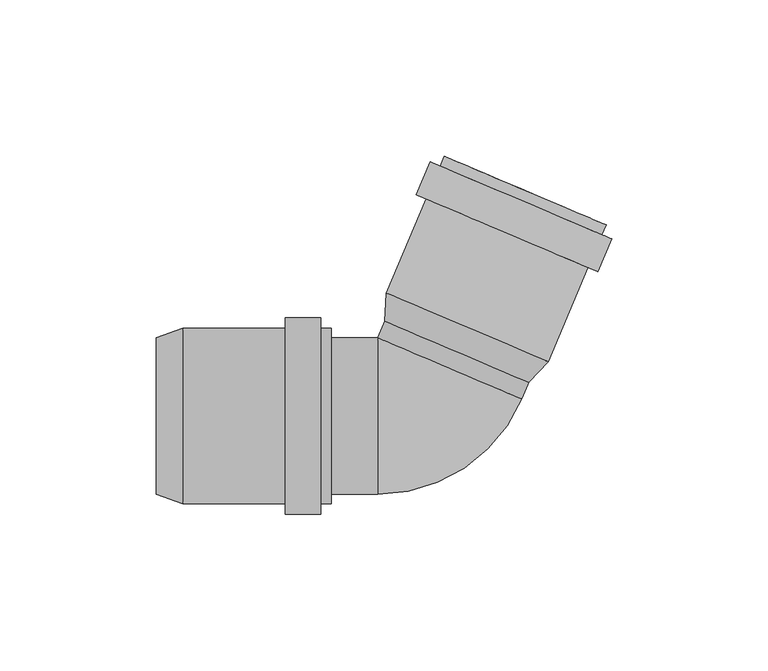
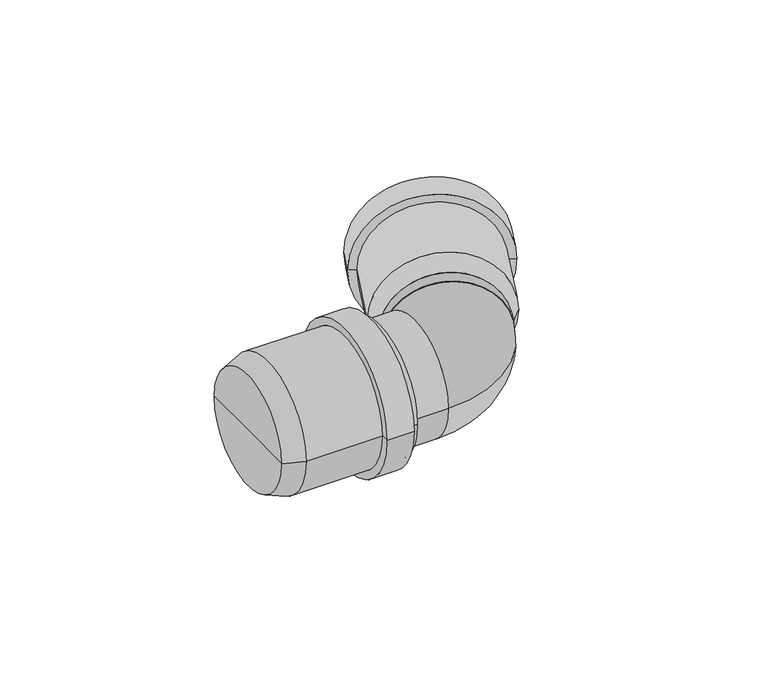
"""IFC4 building model written with IfcOpenShell, lengths in millimetres: pipe fitting geometry, pf_HTB : pf_HTB."""

from ifc_helpers import new_model, si_unit, point, frame, origin, origin_2d, place, context, project, spatial, polyline, circle_curve, ellipse_curve, trimmed, segment, composite_curve, outline, extrude, source, transform, mapped, element, save
from ifc_brep_helpers import plane_surface, cylinder_surface, revolved_surface, advanced_brep


def pipe_fitting_8c246949(model_context):
    return source(origin(), model_context, "Body", "SolidModel", [
        advanced_brep(
        [(31.7259255, 10.75898, 0.0), (-14.2993172, 30.2955364, 0.0), (-13.8316676, 39.3310942, 0.0), (37.9007051, 17.3720048, 0.0), (8.7133042, 20.5272582, 0.0), (56.4604337, 61.0959853, 0.0), (4.728061, 83.0550747, 0.0), (7.581626, 81.8438082, 0.0), (53.6068687, 62.3072518, 0.0), (55.1319479, 57.9662688, 0.0), (3.3995751, 79.9253582, 0.0), (58.2616644, 56.637783, 0.0), (0.2698586, 81.2538441, 0.0), (53.8073295, 46.1440276, 0.0), (-4.1844762, 70.7600887, 0.0), (50.677613, 47.4725135, 0.0), (-1.0547597, 69.4316029, 0.0), (35.0471401, 18.5832713, 0.0), (-10.9781026, 38.1198277, 0.0), (12.0345188, 28.3515495, 0.0)],
        [
            (0, 1, circle_curve(frame((8.7133042, 20.5272582, 0.0), z_axis=(0.3907311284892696, 0.9205048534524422, 0.0), x_axis=(-0.9205048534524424, 0.3907311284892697, 0.0)), 25.0)),
            (1, 2),
            (2, 3, circle_curve(frame((12.0345188, 28.3515495, 0.0), z_axis=(-0.3907311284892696, -0.9205048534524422, 0.0), x_axis=(-0.9205048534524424, 0.3907311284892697, 0.0)), 28.1)),
            (3, 0),
            (1, 0, circle_curve(frame((8.7133042, 20.5272582, 0.0), z_axis=(0.3907311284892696, 0.9205048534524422, 0.0), x_axis=(-0.9205048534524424, 0.3907311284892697, 0.0)), 25.0)),
            (3, 2, circle_curve(frame((12.0345188, 28.3515495, 0.0), z_axis=(-0.3907311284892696, -0.9205048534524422, 0.0), x_axis=(-0.9205048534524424, 0.3907311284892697, 0.0)), 28.1)),
            (4, 1),
            (0, 4),
            (5, 6, circle_curve(frame((30.5942474, 72.07553, 0.0), z_axis=(0.3907311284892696, 0.9205048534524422, 0.0), x_axis=(-0.9205048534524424, 0.3907311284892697, 0.0)), 28.1)),
            (6, 7),
            (7, 8, circle_curve(frame((30.5942474, 72.07553, 0.0), z_axis=(-0.3907311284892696, -0.9205048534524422, 0.0), x_axis=(-0.9205048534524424, 0.3907311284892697, 0.0)), 25.0)),
            (8, 5),
            (6, 5, circle_curve(frame((30.5942474, 72.07553, 0.0), z_axis=(0.3907311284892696, 0.9205048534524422, 0.0), x_axis=(-0.9205048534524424, 0.3907311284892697, 0.0)), 28.1)),
            (8, 7, circle_curve(frame((30.5942474, 72.07553, 0.0), z_axis=(-0.3907311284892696, -0.9205048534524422, 0.0), x_axis=(-0.9205048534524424, 0.3907311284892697, 0.0)), 25.0)),
            (9, 10, circle_curve(frame((29.2657615, 68.9458135, 0.0), z_axis=(0.3907311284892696, 0.9205048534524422, 0.0), x_axis=(-0.9205048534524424, 0.3907311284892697, 0.0)), 28.1)),
            (10, 6),
            (5, 9),
            (10, 9, circle_curve(frame((29.2657615, 68.9458135, 0.0), z_axis=(0.3907311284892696, 0.9205048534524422, 0.0), x_axis=(-0.9205048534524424, 0.3907311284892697, 0.0)), 28.1)),
            (11, 12, circle_curve(frame((29.2657615, 68.9458135, 0.0), z_axis=(0.3907311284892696, 0.9205048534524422, 0.0), x_axis=(-0.9205048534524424, 0.3907311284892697, 0.0)), 31.5)),
            (12, 10),
            (9, 11),
            (12, 11, circle_curve(frame((29.2657615, 68.9458135, 0.0), z_axis=(0.3907311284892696, 0.9205048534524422, 0.0), x_axis=(-0.9205048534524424, 0.3907311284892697, 0.0)), 31.5)),
            (13, 14, circle_curve(frame((24.8114267, 58.4520582, 0.0), z_axis=(0.3907311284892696, 0.9205048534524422, 0.0), x_axis=(-0.9205048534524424, 0.3907311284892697, 0.0)), 31.5)),
            (14, 12),
            (11, 13),
            (14, 13, circle_curve(frame((24.8114267, 58.4520582, 0.0), z_axis=(0.3907311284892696, 0.9205048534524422, 0.0), x_axis=(-0.9205048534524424, 0.3907311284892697, 0.0)), 31.5)),
            (15, 16, circle_curve(frame((24.8114267, 58.4520582, 0.0), z_axis=(0.3907311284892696, 0.9205048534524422, 0.0), x_axis=(-0.9205048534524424, 0.3907311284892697, 0.0)), 28.1)),
            (16, 14),
            (13, 15),
            (16, 15, circle_curve(frame((24.8114267, 58.4520582, 0.0), z_axis=(0.3907311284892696, 0.9205048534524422, 0.0), x_axis=(-0.9205048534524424, 0.3907311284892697, 0.0)), 28.1)),
            (2, 16),
            (15, 3),
            (17, 18, circle_curve(frame((12.0345188, 28.3515495, 0.0), z_axis=(0.3907311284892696, 0.9205048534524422, 0.0), x_axis=(-0.9205048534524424, 0.3907311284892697, 0.0)), 25.0)),
            (18, 19),
            (19, 17),
            (18, 17, circle_curve(frame((12.0345188, 28.3515495, 0.0), z_axis=(0.3907311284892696, 0.9205048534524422, 0.0), x_axis=(-0.9205048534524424, 0.3907311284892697, 0.0)), 25.0)),
            (7, 18),
            (17, 8),
        ],
        [
            revolved_surface(polyline([(-13.8316676, 39.3310942, 0.0), (-14.2993172, 30.2955364, 0.0)]), (8.7133042, 20.5272582, 0.0), (-0.3907311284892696, -0.9205048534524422, 0.0)),
            plane_surface(frame((8.7133042, 20.5272582, 0.0), z_axis=(-0.3907311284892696, -0.9205048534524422, 0.0), x_axis=(-0.9205048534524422, 0.3907311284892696, 0.0))),
            plane_surface(frame((30.5942474, 72.07553, 0.0), z_axis=(0.3907311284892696, 0.9205048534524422, 0.0), x_axis=(-0.9205048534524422, 0.3907311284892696, 0.0))),
            cylinder_surface(frame((8.7133042, 20.5272582, 0.0), z_axis=(-0.3907311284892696, -0.9205048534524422, 0.0), x_axis=(-0.9205048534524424, 0.3907311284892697, 0.0)), 28.1),
            plane_surface(frame((29.2657615, 68.9458135, 0.0), z_axis=(0.3907311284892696, 0.9205048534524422, 0.0), x_axis=(-0.9205048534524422, 0.3907311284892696, 0.0))),
            cylinder_surface(frame((8.7133042, 20.5272582, 0.0), z_axis=(-0.3907311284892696, -0.9205048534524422, 0.0), x_axis=(-0.9205048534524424, 0.3907311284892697, 0.0)), 31.5),
            plane_surface(frame((24.8114267, 58.4520582, 0.0), z_axis=(-0.3907311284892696, -0.9205048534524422, 0.0), x_axis=(-0.9205048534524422, 0.3907311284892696, 0.0))),
            plane_surface(frame((12.0345188, 28.3515495, 0.0), z_axis=(0.3907311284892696, 0.9205048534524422, 0.0), x_axis=(-0.9205048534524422, 0.3907311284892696, 0.0))),
            revolved_surface(polyline([(-10.978102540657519, 38.119827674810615, 0.0), (7.581626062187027, 81.84380821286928, 0.0)]), (8.7133042, 20.5272582, 0.0), (-0.3907311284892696, -0.9205048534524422, 0.0)),
        ],
        [
            (0, [[1, 2, 3, 4]]),
            (0, [[5, -4, 6, -2]]),
            (1, [[7, -1, 8]]),
            (1, [[-8, -5, -7]]),
            (2, [[9, 10, 11, 12]]),
            (2, [[13, -12, 14, -10]]),
            (3, [[15, 16, -9, 17]]),
            (3, [[18, -17, -13, -16]]),
            (4, [[19, 20, -15, 21]]),
            (4, [[22, -21, -18, -20]]),
            (5, [[23, 24, -19, 25]]),
            (5, [[26, -25, -22, -24]]),
            (6, [[27, 28, -23, 29]]),
            (6, [[30, -29, -26, -28]]),
            (3, [[-3, 31, -27, 32]]),
            (3, [[-6, -32, -30, -31]]),
            (7, [[33, 34, 35]]),
            (7, [[36, -35, -34]]),
            (8, [[-11, 37, -33, 38]]),
            (8, [[-14, -38, -36, -37]]),
        ],
    ),
        advanced_brep(
        [(-87.4, -25.0, 0.0), (-87.4, 25.0, 0.0), (-78.9, 28.1, 0.0), (-78.9, -28.1, 0.0), (-87.4, 0.0, 0.0), (-31.4, -28.1, 0.0), (-31.4, 28.1, 0.0), (-31.4, 25.0, 0.0), (-31.4, -25.0, 0.0), (-34.8, -28.1, 0.0), (-34.8, 28.1, 0.0), (-34.8, -31.5, 0.0), (-34.8, 31.5, 0.0), (-46.2, -31.5, 0.0), (-46.2, 31.5, 0.0), (-46.2, -28.1, 0.0), (-46.2, 28.1, 0.0), (-78.9, -25.0, 0.0), (-78.9, 25.0, 0.0), (-78.9, 0.0, 0.0)],
        [
            (0, 1, circle_curve(frame((-87.4, 0.0, 0.0), z_axis=(1.0, 0.0, 0.0), x_axis=(0.0, 1.0, 0.0)), 25.0)),
            (1, 2),
            (2, 3, circle_curve(frame((-78.9, 0.0, 0.0), z_axis=(-1.0, 0.0, 0.0), x_axis=(0.0, 1.0, 0.0)), 28.1)),
            (3, 0),
            (1, 0, circle_curve(frame((-87.4, 0.0, 0.0), z_axis=(1.0, 0.0, 0.0), x_axis=(0.0, 1.0, 0.0)), 25.0)),
            (3, 2, circle_curve(frame((-78.9, 0.0, 0.0), z_axis=(-1.0, 0.0, 0.0), x_axis=(0.0, 1.0, 0.0)), 28.1)),
            (4, 1),
            (0, 4),
            (5, 6, circle_curve(frame((-31.4, 0.0, 0.0), z_axis=(1.0, 0.0, 0.0), x_axis=(0.0, 1.0, 0.0)), 28.1)),
            (6, 7),
            (7, 8, circle_curve(frame((-31.4, 0.0, 0.0), z_axis=(-1.0, 0.0, 0.0), x_axis=(0.0, 1.0, 0.0)), 25.0)),
            (8, 5),
            (6, 5, circle_curve(frame((-31.4, 0.0, 0.0), z_axis=(1.0, 0.0, 0.0), x_axis=(0.0, 1.0, 0.0)), 28.1)),
            (8, 7, circle_curve(frame((-31.4, 0.0, 0.0), z_axis=(-1.0, 0.0, 0.0), x_axis=(0.0, 1.0, 0.0)), 25.0)),
            (9, 10, circle_curve(frame((-34.8, 0.0, 0.0), z_axis=(1.0, 0.0, 0.0), x_axis=(0.0, 1.0, 0.0)), 28.1)),
            (10, 6),
            (5, 9),
            (10, 9, circle_curve(frame((-34.8, 0.0, 0.0), z_axis=(1.0, 0.0, 0.0), x_axis=(0.0, 1.0, 0.0)), 28.1)),
            (11, 12, circle_curve(frame((-34.8, 0.0, 0.0), z_axis=(1.0, 0.0, 0.0), x_axis=(0.0, 1.0, 0.0)), 31.5)),
            (12, 10),
            (9, 11),
            (12, 11, circle_curve(frame((-34.8, 0.0, 0.0), z_axis=(1.0, 0.0, 0.0), x_axis=(0.0, 1.0, 0.0)), 31.5)),
            (13, 14, circle_curve(frame((-46.2, 0.0, 0.0), z_axis=(1.0, 0.0, 0.0), x_axis=(0.0, 1.0, 0.0)), 31.5)),
            (14, 12),
            (11, 13),
            (14, 13, circle_curve(frame((-46.2, 0.0, 0.0), z_axis=(1.0, 0.0, 0.0), x_axis=(0.0, 1.0, 0.0)), 31.5)),
            (15, 16, circle_curve(frame((-46.2, 0.0, 0.0), z_axis=(1.0, 0.0, 0.0), x_axis=(0.0, 1.0, 0.0)), 28.1)),
            (16, 14),
            (13, 15),
            (16, 15, circle_curve(frame((-46.2, 0.0, 0.0), z_axis=(1.0, 0.0, 0.0), x_axis=(0.0, 1.0, 0.0)), 28.1)),
            (2, 16),
            (15, 3),
            (17, 18, circle_curve(frame((-78.9, 0.0, 0.0), z_axis=(1.0, 0.0, 0.0), x_axis=(0.0, 1.0, 0.0)), 25.0)),
            (18, 19),
            (19, 17),
            (18, 17, circle_curve(frame((-78.9, 0.0, 0.0), z_axis=(1.0, 0.0, 0.0), x_axis=(0.0, 1.0, 0.0)), 25.0)),
            (7, 18),
            (17, 8),
        ],
        [
            revolved_surface(polyline([(-78.9, 28.1, 0.0), (-87.4, 25.0, 0.0)]), (-87.4, 0.0, 0.0), (-1.0, 0.0, 0.0)),
            plane_surface(frame((-87.4, 0.0, 0.0), z_axis=(-1.0, 0.0, 0.0), x_axis=(0.0, 1.0, 0.0))),
            plane_surface(frame((-31.4, 0.0, 0.0), z_axis=(1.0, 0.0, 0.0), x_axis=(0.0, 1.0, 0.0))),
            cylinder_surface(frame((-87.4, 0.0, 0.0), z_axis=(-1.0, 0.0, 0.0), x_axis=(0.0, 1.0, 0.0)), 28.1),
            plane_surface(frame((-34.8, 0.0, 0.0), z_axis=(1.0, 0.0, 0.0), x_axis=(0.0, 1.0, 0.0))),
            cylinder_surface(frame((-87.4, 0.0, 0.0), z_axis=(-1.0, 0.0, 0.0), x_axis=(0.0, 1.0, 0.0)), 31.5),
            plane_surface(frame((-46.2, 0.0, 0.0), z_axis=(-1.0, 0.0, 0.0), x_axis=(0.0, 1.0, 0.0))),
            plane_surface(frame((-78.9, 0.0, 0.0), z_axis=(1.0, 0.0, 0.0), x_axis=(0.0, 1.0, 0.0))),
            revolved_surface(polyline([(-78.9, 25.0, 0.0), (-31.4, 25.0, 0.0)]), (-87.4, 0.0, 0.0), (-1.0, 0.0, 0.0)),
        ],
        [
            (0, [[1, 2, 3, 4]]),
            (0, [[5, -4, 6, -2]]),
            (1, [[7, -1, 8]]),
            (1, [[-8, -5, -7]]),
            (2, [[9, 10, 11, 12]]),
            (2, [[13, -12, 14, -10]]),
            (3, [[15, 16, -9, 17]]),
            (3, [[18, -17, -13, -16]]),
            (4, [[19, 20, -15, 21]]),
            (4, [[22, -21, -18, -20]]),
            (5, [[23, 24, -19, 25]]),
            (5, [[26, -25, -22, -24]]),
            (6, [[27, 28, -23, 29]]),
            (6, [[30, -29, -26, -28]]),
            (3, [[-3, 31, -27, 32]]),
            (3, [[-6, -32, -30, -31]]),
            (7, [[33, 34, 35]]),
            (7, [[36, -35, -34]]),
            (8, [[-11, 37, -33, 38]]),
            (8, [[-14, -38, -36, -37]]),
        ],
    ),
        extrude(outline(composite_curve([segment(trimmed(circle_curve(origin_2d(), 25.0), [point((0.0, -25.0))], [point((0.0, 25.0))], False, "CARTESIAN"), True, "CONTINUOUS"), segment(trimmed(circle_curve(origin_2d(), 25.0), [point((0.0, 25.0))], [point((0.0, -25.0))], False, "CARTESIAN"), True, "CONTINUOUS")], self_intersect=False)), frame((6.4654823, 15.2317218, 0.0), z_axis=(0.39073112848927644, 0.9205048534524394, 0.0), x_axis=(0.0, 0.0, 1.0)), (0.0, 0.0, 1.0), 14.252861),
        extrude(outline(composite_curve([segment(trimmed(circle_curve(origin_2d(), 25.0), [point((-25.0, 0.0))], [point((25.0, 0.0))], False, "CARTESIAN"), True, "CONTINUOUS"), segment(trimmed(circle_curve(origin_2d(), 25.0), [point((25.0, 0.0))], [point((-25.0, 0.0))], False, "CARTESIAN"), True, "CONTINUOUS")], self_intersect=False)), frame((-78.9, 0.0, 0.0), z_axis=(1.0, 0.0, 0.0), x_axis=(0.0, 1.0, 0.0)), (0.0, 0.0, 1.0), 62.352861),
        advanced_brep(
        [(-16.547139, -25.0, 0.0), (-16.547139, 25.0, 0.0), (29.4781036, 5.4634436, 0.0)],
        [
            (0, 1, circle_curve(frame((-16.547139, 0.0, 0.0), z_axis=(-1.0, 0.0, 0.0), x_axis=(0.0, 1.0, 0.0)), 25.0)),
            (1, 0, circle_curve(frame((-16.547139, 0.0, 0.0), z_axis=(-1.0, 0.0, 0.0), x_axis=(0.0, 1.0, 0.0)), 25.0)),
            (2, 1, circle_curve(frame((6.4654823, 15.2317218, 0.0), z_axis=(0.39073112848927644, 0.9205048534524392, 0.0), x_axis=(-0.9205048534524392, 0.39073112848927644, 0.0)), 25.0)),
            (1, 2, circle_curve(frame((6.4654823, 15.2317218, 0.0), z_axis=(0.39073112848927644, 0.9205048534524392, 0.0), x_axis=(-0.9205048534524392, 0.39073112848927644, 0.0)), 25.0)),
            (2, 0, circle_curve(frame((-16.547139, 25.0, 0.0), z_axis=(0.0, 0.0, -1.0), x_axis=(0.0, -1.0, 0.0)), 50.0)),
        ],
        [
            plane_surface(frame((-16.547139, 25.0, -14.8), z_axis=(-1.0, 0.0, 0.0), x_axis=(0.0, -1.0, 0.0))),
            plane_surface(frame((-16.547139, 25.0, -14.8), z_axis=(0.39073112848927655, 0.9205048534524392, 0.0), x_axis=(0.9205048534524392, -0.39073112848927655, 0.0))),
            revolved_surface(trimmed(ellipse_curve(frame((-16.547139, 0.0, 0.0), z_axis=(1.0, 0.0, 0.0), x_axis=(0.0, 1.0, 0.0)), 25.0, 25.0), [point((-16.547139, -25.0, 0.0))], [point((-16.547139, 25.0, 0.0))], True, "CARTESIAN"), (-16.547139, 25.0, -14.8), (0.0, 0.0, -1.0)),
            revolved_surface(trimmed(ellipse_curve(frame((-16.547139, 0.0, 0.0), z_axis=(1.0, 0.0, 0.0), x_axis=(0.0, 1.0, 0.0)), 25.0, 25.0), [point((-16.547139, 25.0, 0.0))], [point((-16.547139, -25.0, 0.0))], True, "CARTESIAN"), (-16.547139, 25.0, -14.8), (0.0, 0.0, -1.0)),
        ],
        [
            (0, [[1, 2]]),
            (1, [[3, 4]]),
            (2, [[5, -2, -3]]),
            (3, [[-1, -5, -4]]),
        ],
    ),
    ])


if __name__ == "__main__":
    model = new_model("IFC4")
    model_context = context("Model", 3, world=origin())
    ifc_project = project(units=[si_unit("LENGTHUNIT", "METRE", prefix="MILLI")], contexts=[model_context])
    site = spatial("IfcSite", under=ifc_project)
    building = spatial("IfcBuilding", under=site)
    placement = place(None, origin())
    pipe_fitting_shape = pipe_fitting_8c246949(model_context)
    element("IfcPipeFitting", 1, ObjectType="pf_HTB : pf_HTB", at=placement, inside=building, context=model_context, shape_type="MappedRepresentation", body=[
        mapped(pipe_fitting_shape, transform((0.0, 0.0, 0.0), x_axis=(1.0, 0.0, 0.0), y_axis=(0.0, 1.0, 0.0), z_axis=(0.0, 0.0, 1.0))),
    ])
    save(model, "model.ifc")
